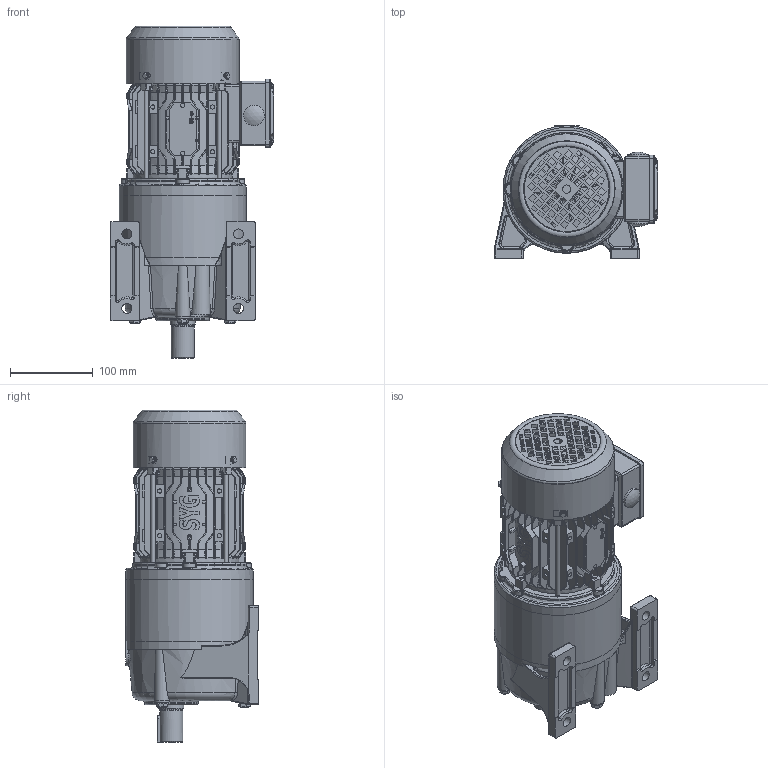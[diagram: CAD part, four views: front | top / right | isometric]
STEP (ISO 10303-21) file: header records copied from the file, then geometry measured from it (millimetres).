
FILE_DESCRIPTION(/* description */ (''),/* implementation_level */ '2;1');
FILE_NAME(/* name */ 'D:\▼ 3D：MG\01. 내부 직접 검토품\MG 고비율\MG105C\외형도용 - ASS''Y\SK2\MG105C0A - OUTLINE (SK2，HT，0.4kW).stp',/* time_stamp */ '2026-04-21T13:20:27+09:00',/* author */ ('이정훈'),/* organization */ (''),/* preprocessor_version */ 'ST-DEVELOPER v18.1',/* originating_system */ 'Autodesk Inventor 2022',/* authorisation */ '');
FILE_SCHEMA (('AUTOMOTIVE_DESIGN { 1 0 10303 214 3 1 1 }'));
Length unit declared in the file: millimetre
Products named in the file (1): MG105C0A - OUTLINE (SK2，HT，0.4k
W)
Bounding box: 197.51 x 160 x 401.48 mm (x, y, z)
Volume: 5106698 mm3; surface area: 422697.4 mm2
Topology: 5 solids, 5 shells, 2928 faces, 8206 edges, 5322 vertices
Faces by surface type: plane 1385, bspline 722, cylinder 480, cone 210, torus 121, sphere 10
Full cylindrical faces by diameter (mm): 2 x4, 3 x1, 3.81 x4, 4.2 x4, 4.523 x4, 5 x20, 6 x4, 8 x4, 10 x1, 12 x4, 15 x1, 25 x2, 27.4 x1, 28 x1, 30 x1, 36 x1, 65 x1, 104 x1, 135 x1, 136.6 x1, 154 x2
Entity records: 148514 total; most frequent: CARTESIAN_POINT 77820, ORIENTED_EDGE 16402, DIRECTION 12284, EDGE_CURVE 8201, VERTEX_POINT 5322, LINE 4112, VECTOR 4112, AXIS2_PLACEMENT_3D 4086
